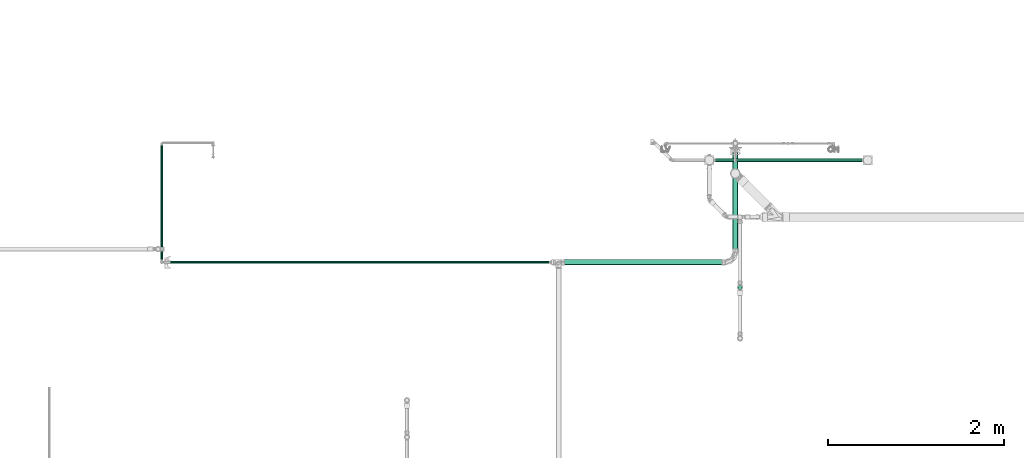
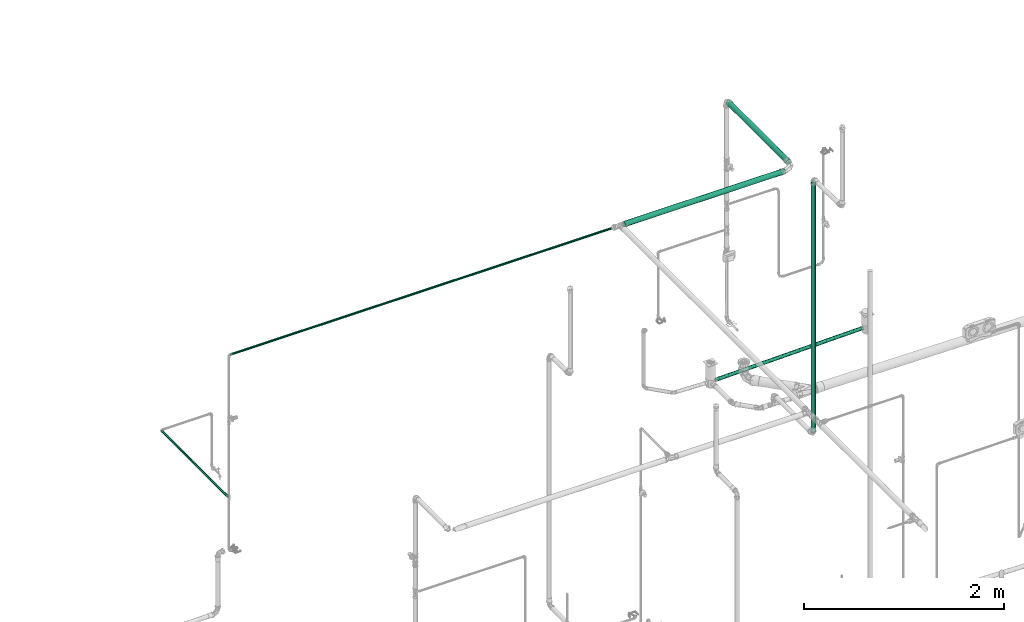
# One storey, part 22 of 589: 6 flow segments.
"""IFC2X3 building model written with IfcOpenShell, lengths in millimetres."""

from ifc_helpers import new_model, entity, si_unit, converted_unit, derived_unit, direction, frame, frame_2d, origin, origin_2d_with_axis, place, context, subcontext, project, spatial, circle, extrude, type_object, element, save


model = new_model("IFC2X3")

# Units and contexts
model_context = context("Model", 3, precision=0.01, world=origin(), true_north=direction((6.123031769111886e-17, 1.0)))
body_context = subcontext(model_context, "Body", "Model", "MODEL_VIEW")
ifc_project = project(units=[si_unit("LENGTHUNIT", "METRE", prefix="MILLI"), si_unit("AREAUNIT", "SQUARE_METRE"), si_unit("VOLUMEUNIT", "CUBIC_METRE"), converted_unit("PLANEANGLEUNIT", "DEGREE", entity("IfcRatioMeasure", 0.017453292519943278), si_unit("PLANEANGLEUNIT", "RADIAN"), dimensions=[0, 0, 0, 0, 0, 0, 0]), si_unit("MASSUNIT", "GRAM", prefix="KILO"), derived_unit("MASSDENSITYUNIT", [(si_unit("MASSUNIT", "GRAM", prefix="KILO"), 1), (si_unit("LENGTHUNIT", "METRE"), -3)]), derived_unit("IONCONCENTRATIONUNIT", [(si_unit("MASSUNIT", "GRAM", prefix="KILO"), 1), (si_unit("LENGTHUNIT", "METRE"), -3)]), derived_unit("MOMENTOFINERTIAUNIT", [(si_unit("LENGTHUNIT", "METRE"), 4)]), si_unit("TIMEUNIT", "SECOND"), si_unit("FREQUENCYUNIT", "HERTZ"), si_unit("THERMODYNAMICTEMPERATUREUNIT", "DEGREE_CELSIUS"), derived_unit("THERMALTRANSMITTANCEUNIT", [(si_unit("MASSUNIT", "GRAM", prefix="KILO"), 1), (si_unit("THERMODYNAMICTEMPERATUREUNIT", "KELVIN"), -1), (si_unit("TIMEUNIT", "SECOND"), -3)]), derived_unit("THERMALCONDUCTANCEUNIT", [(si_unit("MASSUNIT", "GRAM", prefix="KILO"), 1), (si_unit("THERMODYNAMICTEMPERATUREUNIT", "KELVIN"), -1), (si_unit("TIMEUNIT", "SECOND"), -3), (si_unit("LENGTHUNIT", "METRE"), 1)]), derived_unit("VOLUMETRICFLOWRATEUNIT", [(si_unit("LENGTHUNIT", "METRE"), 3), (si_unit("TIMEUNIT", "SECOND"), -1)]), derived_unit("MASSFLOWRATEUNIT", [(si_unit("MASSUNIT", "GRAM", prefix="KILO"), 1), (si_unit("TIMEUNIT", "SECOND"), -1)]), derived_unit("ROTATIONALFREQUENCYUNIT", [(si_unit("TIMEUNIT", "SECOND"), -1)]), si_unit("ELECTRICCURRENTUNIT", "AMPERE"), si_unit("ELECTRICVOLTAGEUNIT", "VOLT"), si_unit("POWERUNIT", "WATT"), si_unit("FORCEUNIT", "NEWTON", prefix="KILO"), si_unit("ILLUMINANCEUNIT", "LUX"), si_unit("LUMINOUSFLUXUNIT", "LUMEN"), si_unit("LUMINOUSINTENSITYUNIT", "CANDELA"), derived_unit("USERDEFINED", [(si_unit("MASSUNIT", "GRAM", prefix="KILO"), -1), (si_unit("LENGTHUNIT", "METRE"), -2), (si_unit("TIMEUNIT", "SECOND"), 3), (si_unit("LUMINOUSFLUXUNIT", "LUMEN"), 1)]), derived_unit("USERDEFINED", [(si_unit("MASSUNIT", "GRAM", prefix="KILO"), 1), (si_unit("TIMEUNIT", "SECOND"), -3), (si_unit("LENGTHUNIT", "METRE"), 3), (si_unit("ELECTRICCURRENTUNIT", "AMPERE"), -2)]), derived_unit("SOUNDPOWERUNIT", [(si_unit("MASSUNIT", "GRAM", prefix="KILO"), 1), (si_unit("TIMEUNIT", "SECOND"), -3), (si_unit("LENGTHUNIT", "METRE"), 2)]), derived_unit("SOUNDPRESSUREUNIT", [(si_unit("MASSUNIT", "GRAM", prefix="KILO"), 1), (si_unit("LENGTHUNIT", "METRE"), -1), (si_unit("TIMEUNIT", "SECOND"), -2)]), derived_unit("LINEARVELOCITYUNIT", [(si_unit("LENGTHUNIT", "METRE"), 1), (si_unit("TIMEUNIT", "SECOND"), -1)]), si_unit("PRESSUREUNIT", "PASCAL"), derived_unit("USERDEFINED", [(si_unit("MASSUNIT", "GRAM", prefix="KILO"), 1), (si_unit("LENGTHUNIT", "METRE"), -2), (si_unit("TIMEUNIT", "SECOND"), -2)]), derived_unit("LINEARFORCEUNIT", [(si_unit("MASSUNIT", "GRAM", prefix="KILO"), 1), (si_unit("TIMEUNIT", "SECOND"), -2)]), derived_unit("PLANARFORCEUNIT", [(si_unit("MASSUNIT", "GRAM", prefix="KILO"), 1), (si_unit("LENGTHUNIT", "METRE"), -1), (si_unit("TIMEUNIT", "SECOND"), -2)]), derived_unit("SPECIFICHEATCAPACITYUNIT", [(si_unit("THERMODYNAMICTEMPERATUREUNIT", "KELVIN"), -1), (si_unit("LENGTHUNIT", "METRE"), 2), (si_unit("TIMEUNIT", "SECOND"), -2)]), derived_unit("HEATINGVALUEUNIT", [(si_unit("LENGTHUNIT", "METRE"), 2), (si_unit("TIMEUNIT", "SECOND"), -2)]), derived_unit("VAPORPERMEABILITYUNIT", [(si_unit("LENGTHUNIT", "METRE"), -1), (si_unit("TIMEUNIT", "SECOND"), 1)]), derived_unit("DYNAMICVISCOSITYUNIT", [(si_unit("MASSUNIT", "GRAM", prefix="KILO"), 1), (si_unit("TIMEUNIT", "SECOND"), -1), (si_unit("LENGTHUNIT", "METRE"), -1)]), derived_unit("THERMALEXPANSIONCOEFFICIENTUNIT", [(si_unit("THERMODYNAMICTEMPERATUREUNIT", "KELVIN"), -1)]), derived_unit("MODULUSOFELASTICITYUNIT", [(si_unit("MASSUNIT", "GRAM", prefix="KILO"), 1), (si_unit("LENGTHUNIT", "METRE"), -1), (si_unit("TIMEUNIT", "SECOND"), -2)]), derived_unit("ISOTHERMALMOISTURECAPACITYUNIT", [(si_unit("LENGTHUNIT", "METRE"), 3), (si_unit("MASSUNIT", "GRAM", prefix="KILO"), -1)]), derived_unit("MOISTUREDIFFUSIVITYUNIT", [(si_unit("TIMEUNIT", "SECOND"), -1), (si_unit("LENGTHUNIT", "METRE"), 2)])], contexts=[model_context])

# Site, building, storey
site_placement = place(None, origin())
site = spatial("IfcSite", under=ifc_project, at=site_placement, Name="Default", CompositionType="ELEMENT")
building_placement = place(site_placement, origin())
building = spatial("IfcBuilding", under=site, at=building_placement, CompositionType="ELEMENT")
storey_placement = place(building_placement, frame((0.0, 0.0, 100.0)))
storey = spatial("IfcBuildingStorey", under=building, at=storey_placement, Name="TÉRREO", CompositionType="ELEMENT", Elevation=100.0)

# Flow segments
pipe_segment_type_1 = type_object("IfcPipeSegmentType", Name="Tipos de tubos:PVC Esgoto Série Normal", PredefinedType="NOTDEFINED")
flow_segment_1_placement = place(storey_placement, origin())
element("IfcFlowSegment", 1, at=flow_segment_1_placement, inside=storey, type_object=pipe_segment_type_1, Name="Tipos de tubos:PVC Esgoto Série Normal", ObjectType="Tipos de tubos:PVC Esgoto Série Normal", context=body_context, shape_type="SweptSolid", body=[
    extrude(circle(Radius=20.0, at=origin_2d_with_axis()), frame((5812.179238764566, 7345.807722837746, -236.8858011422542), z_axis=(0.999755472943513, 0.0, 0.022113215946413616), x_axis=(0.0, 1.0, 0.0)), (0.0, 0.0, 1.0), 1698.8902552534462),
])
flow_segment_2_placement = place(storey_placement, origin())
element("IfcFlowSegment", 2, at=flow_segment_2_placement, inside=storey, type_object=pipe_segment_type_1, Name="Tipos de tubos:PVC Esgoto Série Normal", ObjectType="Tipos de tubos:PVC Esgoto Série Normal", context=body_context, shape_type="SweptSolid", body=[
    extrude(circle(Radius=25.0, at=origin_2d_with_axis()), frame((6108.335906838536, 5899.307135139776, -96.53870003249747), z_axis=(0.0, 0.0, 1.0), x_axis=(-1.0, 0.0, 0.0)), (0.0, 0.0, 1.0), 3057.5974000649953),
])
pipe_segment_type_2 = type_object("IfcPipeSegmentType", Name="Tipos de tubos:PVC Marrom Soldável", PredefinedType="NOTDEFINED")
flow_segment_3_placement = place(storey_placement, origin())
element("IfcFlowSegment", 3, at=flow_segment_3_placement, inside=storey, type_object=pipe_segment_type_2, Name="Tipos de tubos:PVC Marrom Soldável", ObjectType="Tipos de tubos:PVC Marrom Soldável", context=body_context, shape_type="SweptSolid", body=[
    extrude(circle(Radius=12.5, at=frame_2d((6.767919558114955e-14, 2.707167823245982e-13), x_axis=(1.0, 0.0))), frame((-467.58535366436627, 6198.722132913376, 1230.0), z_axis=(0.0, 1.0, 0.0), x_axis=(1.0, 0.0, 0.0)), (0.0, 0.0, 1.0), 1330.0999999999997),
])
flow_segment_4_placement = place(storey_placement, origin())
element("IfcFlowSegment", 4, at=flow_segment_4_placement, inside=storey, type_object=pipe_segment_type_2, Name="Tipos de tubos:PVC Marrom Soldável", ObjectType="Tipos de tubos:PVC Marrom Soldável", context=body_context, shape_type="SweptSolid", body=[
    extrude(circle(Radius=30.0, at=origin_2d_with_axis()), frame((4088.915868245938, 6184.222132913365, 2970.0), z_axis=(1.0, 0.0, 0.0), x_axis=(0.0, -1.0, 0.0)), (0.0, 0.0, 1.0), 1850.9026382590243),
])
flow_segment_5_placement = place(storey_placement, origin())
element("IfcFlowSegment", 5, at=flow_segment_5_placement, inside=storey, type_object=pipe_segment_type_2, Name="Tipos de tubos:PVC Marrom Soldável", ObjectType="Tipos de tubos:PVC Marrom Soldável", context=body_context, shape_type="SweptSolid", body=[
    extrude(circle(Radius=30.0, at=origin_2d_with_axis()), frame((6054.818506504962, 6299.222132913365, 2970.0), z_axis=(0.0, 1.0, 0.0), x_axis=(-1.0, 0.0, 0.0)), (0.0, 0.0, 1.0), 1202.102619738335),
])
flow_segment_6_placement = place(storey_placement, origin())
element("IfcFlowSegment", 6, at=flow_segment_6_placement, inside=storey, type_object=pipe_segment_type_2, Name="Tipos de tubos:PVC Marrom Soldável", ObjectType="Tipos de tubos:PVC Marrom Soldável", context=body_context, shape_type="SweptSolid", body=[
    extrude(circle(Radius=12.5, at=origin_2d_with_axis()), frame((-452.1853536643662, 6184.222132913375, 2970.0), z_axis=(1.0, 0.0, 0.0), x_axis=(0.0, -1.0, 0.0)), (0.0, 0.0, 1.0), 4398.401221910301),
])

save(model, "model.ifc")
